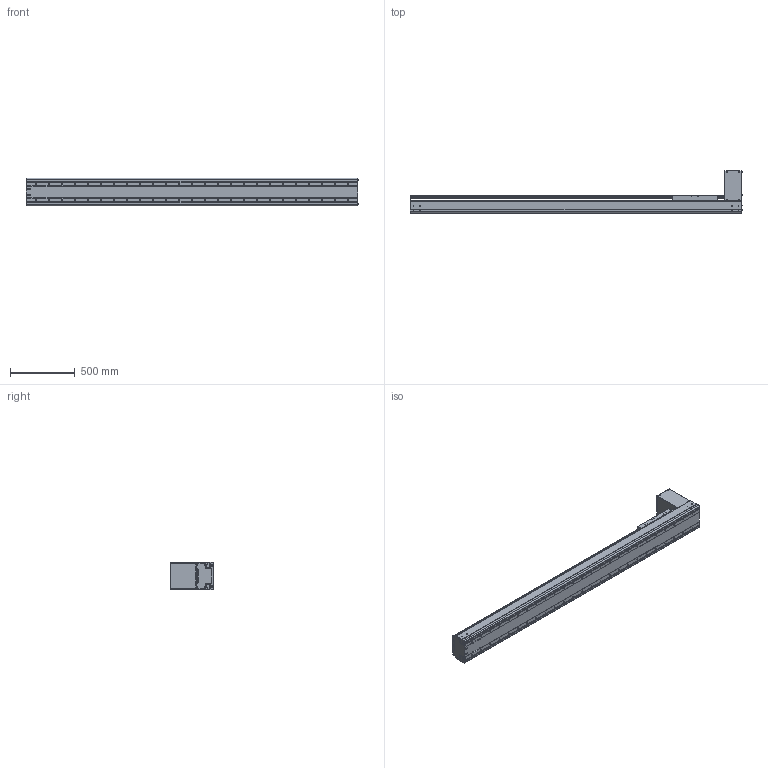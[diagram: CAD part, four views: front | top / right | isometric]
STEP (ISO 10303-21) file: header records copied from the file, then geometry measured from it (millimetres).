
FILE_DESCRIPTION((''),'2;1');
FILE_NAME('BE60J-BT-L19N-K5_IGS_PRT','2017-06-18T',(' '),(''),'PRO/ENGINEER BY PARAMETRIC TECHNOLOGY CORPORATION, 2015030','PRO/ENGINEER BY PARAMETRIC TECHNOLOGY CORPORATION, 2015030','');
FILE_SCHEMA(('CONFIG_CONTROL_DESIGN'));
Products named in the file (1): BE60J-BT-L19N-K5_IGS_PRT
Bounding box: 2554.4 x 327.5 x 214 mm (x, y, z)
Volume: 18185302.8 mm3; surface area: 5556850.3 mm2
Topology: 6 solids, 326 shells, 2409 faces, 6804 edges, 4562 vertices
Faces by surface type: cylinder 1194, plane 865, cone 254, sphere 48, torus 48
Entity records: 80682 total; most frequent: CARTESIAN_POINT 18613, DIRECTION 12970, ORIENTED_EDGE 12148, EDGE_CURVE 6626, AXIS2_PLACEMENT_3D 4928, VERTEX_POINT 4554, VECTOR 3114, LINE 3114
